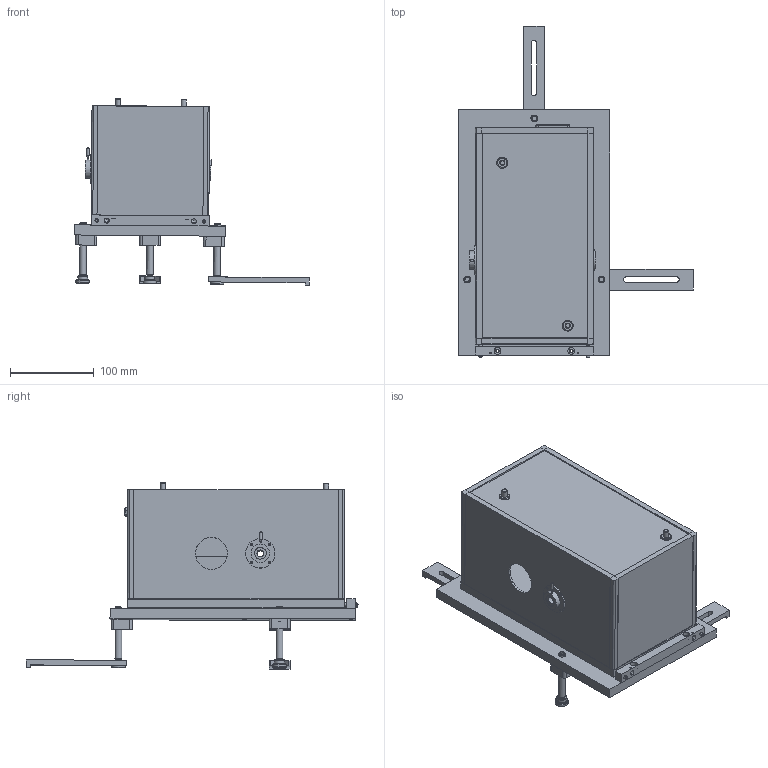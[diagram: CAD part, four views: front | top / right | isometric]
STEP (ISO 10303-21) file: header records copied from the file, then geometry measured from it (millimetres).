
FILE_DESCRIPTION((''),'2;1');
FILE_NAME('P:\Olafp\von marion\Carpe_Konturvereinfachnung_2.stp','2013-02-14T10:43:10',('marion'),(''),'Autodesk Inventor 2013','Autodesk Inventor 2013','');
FILE_SCHEMA(('AUTOMOTIVE_DESIGN { 1 0 10303 214 1 1 1 1 }'));
Length unit declared in the file: millimetre
Products named in the file (1): Carpe_Konturvereinfachnung
Bounding box: 279.58 x 395.5 x 222.23 mm (x, y, z)
Volume: 1610421.1 mm3; surface area: 612772.8 mm2
Topology: 7 solids, 7 shells, 1071 faces, 2618 edges, 1700 vertices
Faces by surface type: plane 624, cylinder 358, cone 49, torus 30, sphere 10
Full cylindrical faces by diameter (mm): 0.6 x50, 1.2 x4, 1.5 x2, 2 x13, 2.013 x6, 2.459 x11, 2.6 x8, 3 x18, 3.141 x2, 3.2 x7, 3.242 x6, 3.3 x2, 4 x11, 4.3 x2, 4.917 x2, 5 x2, 5.4 x3, 5.5 x2, 6 x6, 6.1 x8, 6.2 x2, 7 x3, 8 x14, 8.5 x2, 9 x3, 12 x4, 13 x2, 14 x6, 16 x5, 22 x2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
Entity records: 30841 total; most frequent: CARTESIAN_POINT 5442, DIRECTION 5133, ORIENTED_EDGE 4436, EDGE_CURVE 2218, AXIS2_PLACEMENT_3D 1871, EDGE_LOOP 1616, VERTEX_POINT 1580, VECTOR 1391
